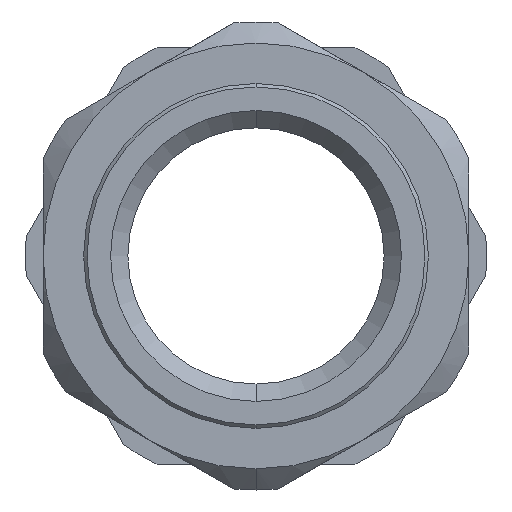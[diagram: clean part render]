
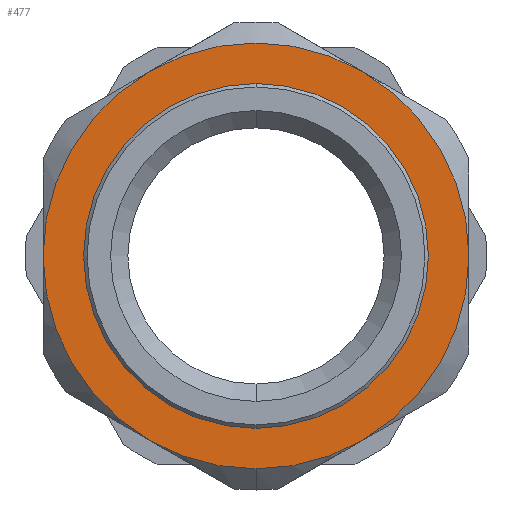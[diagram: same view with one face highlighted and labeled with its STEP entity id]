
A CAD part, front view. The second image highlights one B-rep face of the part: STEP entity #477.
In plain terms, the highlighted planar face has unit normal (0, -1, 0).
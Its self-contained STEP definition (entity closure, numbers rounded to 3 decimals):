
#63 = AXIS2_PLACEMENT_3D ( 'NONE', #1400, #1396, #1395 ) ;
#66 = AXIS2_PLACEMENT_3D ( 'NONE', #1191, #1190, #1189 ) ;
#78 = AXIS2_PLACEMENT_3D ( 'NONE', #1222, #1221, #1220 ) ;
#139 = AXIS2_PLACEMENT_3D ( 'NONE', #1951, #1855, #1955 ) ;
#304 = AXIS2_PLACEMENT_3D ( 'NONE', #1472, #1446, #1429 ) ;
#307 = FACE_OUTER_BOUND ( 'NONE', #1848, .T. ) ;
#308 = FACE_BOUND ( 'NONE', #1847, .T. ) ;
#327 = AXIS2_PLACEMENT_3D ( 'NONE', #1520, #1519, #1518 ) ;
#334 = AXIS2_PLACEMENT_3D ( 'NONE', #1491, #1489, #1488 ) ;
#343 = AXIS2_PLACEMENT_3D ( 'NONE', #1496, #1494, #1492 ) ;
#354 = AXIS2_PLACEMENT_3D ( 'NONE', #1351, #1350, #1349 ) ;
#369 = AXIS2_PLACEMENT_3D ( 'NONE', #1361, #1360, #1359 ) ;
#405 = EDGE_CURVE ( 'NONE', #2417, #2421, #774, .T. ) ;
#411 = EDGE_CURVE ( 'NONE', #2407, #1455, #769, .T. ) ;
#412 = EDGE_CURVE ( 'NONE', #2421, #2384, #768, .T. ) ;
#435 = EDGE_CURVE ( 'NONE', #2406, #2082, #759, .T. ) ;
#448 = EDGE_CURVE ( 'NONE', #1455, #2417, #753, .T. ) ;
#451 = EDGE_CURVE ( 'NONE', #2082, #2407, #754, .T. ) ;
#477 = ADVANCED_FACE ( 'NONE', ( #308, #307 ), #1476, .F. ) ;
#570 = EDGE_CURVE ( 'NONE', #2384, #2406, #703, .T. ) ;
#604 = EDGE_CURVE ( 'NONE', #2391, #2392, #696, .T. ) ;
#614 = EDGE_CURVE ( 'NONE', #2392, #2391, #689, .T. ) ;
#689 = CIRCLE ( 'NONE', #66, 24.9 ) ;
#696 = CIRCLE ( 'NONE', #78, 24.9 ) ;
#703 = CIRCLE ( 'NONE', #139, 30.75 ) ;
#753 = CIRCLE ( 'NONE', #369, 30.75 ) ;
#754 = CIRCLE ( 'NONE', #354, 30.75 ) ;
#759 = CIRCLE ( 'NONE', #63, 30.75 ) ;
#768 = CIRCLE ( 'NONE', #334, 30.75 ) ;
#769 = CIRCLE ( 'NONE', #343, 30.75 ) ;
#774 = CIRCLE ( 'NONE', #327, 30.75 ) ;
#853 = CARTESIAN_POINT ( 'NONE',  ( 15.375, 1., -26.63 ) ) ;
#854 = CARTESIAN_POINT ( 'NONE',  ( 0., 1., -30.75 ) ) ;
#860 = CARTESIAN_POINT ( 'NONE',  ( -30.75, 1., 0. ) ) ;
#861 = CARTESIAN_POINT ( 'NONE',  ( 15.375, 1., 26.63 ) ) ;
#869 = CARTESIAN_POINT ( 'NONE',  ( 0., 1., -24.9 ) ) ;
#870 = CARTESIAN_POINT ( 'NONE',  ( 0., 1., 24.9 ) ) ;
#874 = CARTESIAN_POINT ( 'NONE',  ( 30.75, 1., 0. ) ) ;
#896 = CARTESIAN_POINT ( 'NONE',  ( -15.375, 1., 26.63 ) ) ;
#954 = CARTESIAN_POINT ( 'NONE',  ( -15.375, 1., -26.63 ) ) ;
#1189 = DIRECTION ( 'NONE',  ( 0., 0., -1. ) ) ;
#1190 = DIRECTION ( 'NONE',  ( 0., -1., 0. ) ) ;
#1191 = CARTESIAN_POINT ( 'NONE',  ( 0., 1., 0. ) ) ;
#1220 = DIRECTION ( 'NONE',  ( 0., 0., -1. ) ) ;
#1221 = DIRECTION ( 'NONE',  ( 0., -1., 0. ) ) ;
#1222 = CARTESIAN_POINT ( 'NONE',  ( 0., 1., 0. ) ) ;
#1349 = DIRECTION ( 'NONE',  ( 0., 0., -1. ) ) ;
#1350 = DIRECTION ( 'NONE',  ( 0., -1., 0. ) ) ;
#1351 = CARTESIAN_POINT ( 'NONE',  ( 0., 1., 0. ) ) ;
#1359 = DIRECTION ( 'NONE',  ( 0., 0., -1. ) ) ;
#1360 = DIRECTION ( 'NONE',  ( 0., -1., 0. ) ) ;
#1361 = CARTESIAN_POINT ( 'NONE',  ( 0., 1., 0. ) ) ;
#1395 = DIRECTION ( 'NONE',  ( 0., 0., -1. ) ) ;
#1396 = DIRECTION ( 'NONE',  ( 0., -1., 0. ) ) ;
#1400 = CARTESIAN_POINT ( 'NONE',  ( 0., 1., 0. ) ) ;
#1429 = DIRECTION ( 'NONE',  ( 0., 0., 1. ) ) ;
#1446 = DIRECTION ( 'NONE',  ( 0., 1., 0. ) ) ;
#1455 = VERTEX_POINT ( 'NONE', #954 ) ;
#1472 = CARTESIAN_POINT ( 'NONE',  ( -33.8, 1., 0. ) ) ;
#1476 = PLANE ( 'NONE',  #304 ) ;
#1488 = DIRECTION ( 'NONE',  ( 0., 0., -1. ) ) ;
#1489 = DIRECTION ( 'NONE',  ( 0., -1., 0. ) ) ;
#1491 = CARTESIAN_POINT ( 'NONE',  ( 0., 1., 0. ) ) ;
#1492 = DIRECTION ( 'NONE',  ( 0., 0., -1. ) ) ;
#1494 = DIRECTION ( 'NONE',  ( 0., -1., 0. ) ) ;
#1496 = CARTESIAN_POINT ( 'NONE',  ( 0., 1., 0. ) ) ;
#1518 = DIRECTION ( 'NONE',  ( 0., 0., -1. ) ) ;
#1519 = DIRECTION ( 'NONE',  ( 0., -1., 0. ) ) ;
#1520 = CARTESIAN_POINT ( 'NONE',  ( 0., 1., 0. ) ) ;
#1847 = EDGE_LOOP ( 'NONE', ( #2286, #2287 ) ) ;
#1848 = EDGE_LOOP ( 'NONE', ( #2288, #2290, #2289, #2291, #2292, #2294, #2295 ) ) ;
#1855 = DIRECTION ( 'NONE',  ( 0., -1., 0. ) ) ;
#1951 = CARTESIAN_POINT ( 'NONE',  ( 0., 1., 0. ) ) ;
#1955 = DIRECTION ( 'NONE',  ( 0., 0., -1. ) ) ;
#2082 = VERTEX_POINT ( 'NONE', #896 ) ;
#2286 = ORIENTED_EDGE ( 'NONE', *, *, #614, .F. ) ;
#2287 = ORIENTED_EDGE ( 'NONE', *, *, #604, .F. ) ;
#2288 = ORIENTED_EDGE ( 'NONE', *, *, #570, .T. ) ;
#2289 = ORIENTED_EDGE ( 'NONE', *, *, #451, .T. ) ;
#2290 = ORIENTED_EDGE ( 'NONE', *, *, #435, .T. ) ;
#2291 = ORIENTED_EDGE ( 'NONE', *, *, #411, .T. ) ;
#2292 = ORIENTED_EDGE ( 'NONE', *, *, #448, .T. ) ;
#2294 = ORIENTED_EDGE ( 'NONE', *, *, #405, .T. ) ;
#2295 = ORIENTED_EDGE ( 'NONE', *, *, #412, .T. ) ;
#2384 = VERTEX_POINT ( 'NONE', #874 ) ;
#2391 = VERTEX_POINT ( 'NONE', #870 ) ;
#2392 = VERTEX_POINT ( 'NONE', #869 ) ;
#2406 = VERTEX_POINT ( 'NONE', #861 ) ;
#2407 = VERTEX_POINT ( 'NONE', #860 ) ;
#2417 = VERTEX_POINT ( 'NONE', #854 ) ;
#2421 = VERTEX_POINT ( 'NONE', #853 ) ;
